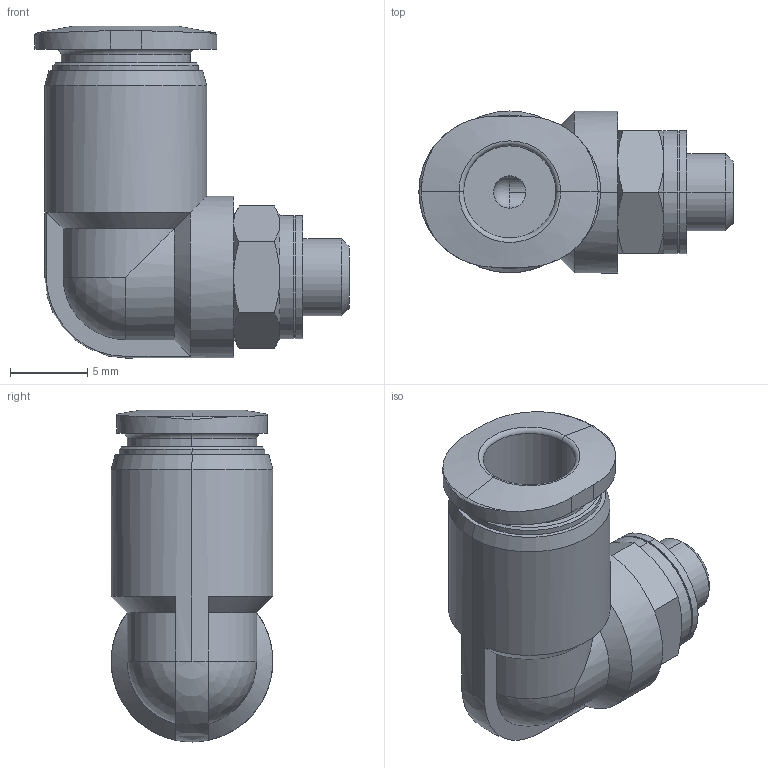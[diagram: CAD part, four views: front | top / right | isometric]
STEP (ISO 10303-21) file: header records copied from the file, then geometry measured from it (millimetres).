
FILE_DESCRIPTION (( 'STEP AP203' ), '1' );
FILE_NAME ('14010004.STEP', '2016-11-10T13:20:33', ( '' ), ( '' ), 'SwSTEP 2.0', 'SolidWorks 2015', '' );
FILE_SCHEMA (( 'CONFIG_CONTROL_DESIGN' ));
Length unit declared in the file: millimetre
Products named in the file (1): 14010004
Bounding box: 20.4 x 10.5 x 21.55 mm (x, y, z)
Volume: 1644.6 mm3; surface area: 1473.9 mm2
Topology: 1 solids, 1 shells, 84 faces, 194 edges, 116 vertices
Faces by surface type: cone 28, cylinder 27, plane 18, torus 7, sphere 4
Entity records: 2560 total; most frequent: CARTESIAN_POINT 609, DIRECTION 409, ORIENTED_EDGE 384, EDGE_CURVE 192, AXIS2_PLACEMENT_3D 178, VERTEX_POINT 116, CIRCLE 93, EDGE_LOOP 92
